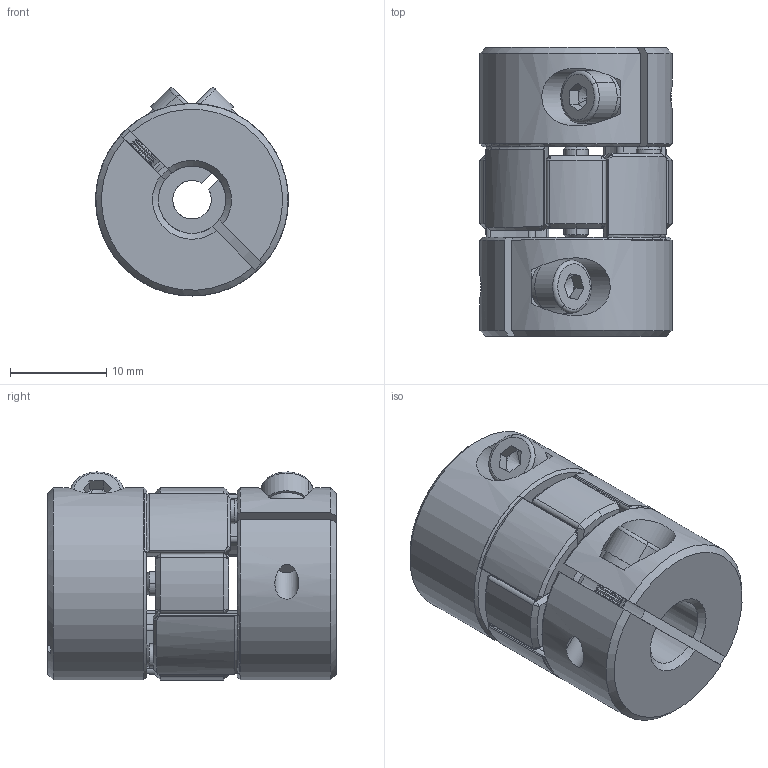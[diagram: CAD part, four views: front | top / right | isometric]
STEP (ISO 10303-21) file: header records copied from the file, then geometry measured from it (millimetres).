
FILE_DESCRIPTION (( 'STEP AP203' ), '1' );
FILE_NAME ('LF-B-D20L30-4-7.STEP', '2021-10-27T02:40:12', ( '' ), ( '' ), 'SwSTEP 2.0', 'SolidWorks 2018', '' );
FILE_SCHEMA (( 'CONFIG_CONTROL_DESIGN' ));
Length unit declared in the file: millimetre
Products named in the file (1): LF-B-D20L30-4-7
Bounding box: 20 x 30 x 21.62 mm (x, y, z)
Volume: 7785.2 mm3; surface area: 4887.8 mm2
Topology: 1 solids, 1 shells, 518 faces, 1253 edges, 691 vertices
Faces by surface type: cone 252, cylinder 192, plane 62, torus 12
Entity records: 15024 total; most frequent: CARTESIAN_POINT 2904, DIRECTION 2742, ORIENTED_EDGE 2426, EDGE_CURVE 1213, AXIS2_PLACEMENT_3D 1107, VERTEX_POINT 691, CIRCLE 588, EDGE_LOOP 546
